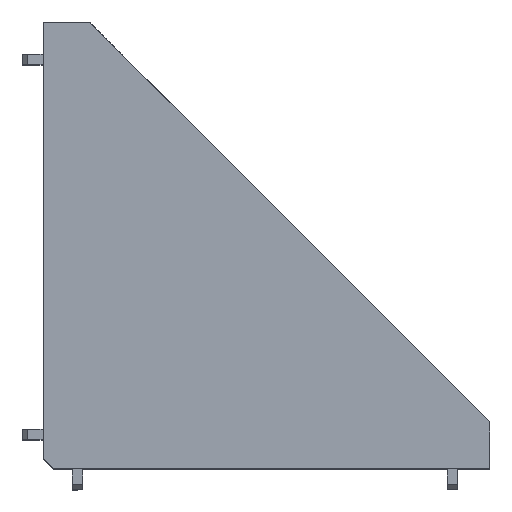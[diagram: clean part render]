
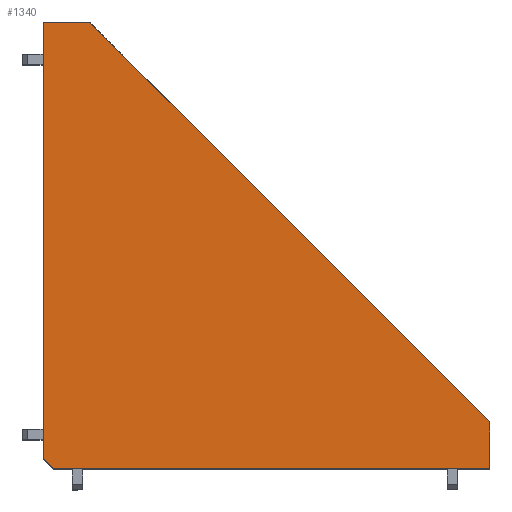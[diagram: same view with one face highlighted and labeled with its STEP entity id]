
A CAD part, top view. The second image highlights one B-rep face of the part: STEP entity #1340.
In plain terms, the highlighted planar face has unit normal (0, 0, 1).
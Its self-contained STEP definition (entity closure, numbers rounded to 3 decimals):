
#54 = EDGE_CURVE ( 'NONE', #4674, #561, #4972, .T. ) ;
#78 = DIRECTION ( 'NONE',  ( 0., 0., 1. ) ) ;
#167 = DIRECTION ( 'NONE',  ( 0.707, -0.707, 0. ) ) ;
#199 = AXIS2_PLACEMENT_3D ( 'NONE', #700, #78, #5565 ) ;
#211 = CARTESIAN_POINT ( 'NONE',  ( 9., 86., 44. ) ) ;
#287 = CARTESIAN_POINT ( 'NONE',  ( 0., 0., 44. ) ) ;
#359 = EDGE_CURVE ( 'NONE', #561, #5852, #3924, .T. ) ;
#367 = VECTOR ( 'NONE', #1790, 1000. ) ;
#561 = VERTEX_POINT ( 'NONE', #1968 ) ;
#632 = CARTESIAN_POINT ( 'NONE',  ( 2., 0., 44. ) ) ;
#700 = CARTESIAN_POINT ( 'NONE',  ( 0., 0., 44. ) ) ;
#784 = CARTESIAN_POINT ( 'NONE',  ( 1., 1., 44. ) ) ;
#903 = LINE ( 'NONE', #287, #5062 ) ;
#1210 = DIRECTION ( 'NONE',  ( -1., 0., 0. ) ) ;
#1340 = ADVANCED_FACE ( 'NONE', ( #5672 ), #1955, .T. ) ;
#1538 = VECTOR ( 'NONE', #1210, 1000. ) ;
#1722 = VECTOR ( 'NONE', #167, 1000. ) ;
#1790 = DIRECTION ( 'NONE',  ( 0., 1., 0. ) ) ;
#1832 = CARTESIAN_POINT ( 'NONE',  ( 0., 86., 44. ) ) ;
#1955 = PLANE ( 'NONE',  #199 ) ;
#1968 = CARTESIAN_POINT ( 'NONE',  ( 0., 2., 44. ) ) ;
#2012 = CARTESIAN_POINT ( 'NONE',  ( 0., 86., 44. ) ) ;
#2277 = CARTESIAN_POINT ( 'NONE',  ( 86., 0., 44. ) ) ;
#2434 = CARTESIAN_POINT ( 'NONE',  ( 86., 0., 44. ) ) ;
#2477 = LINE ( 'NONE', #1832, #1538 ) ;
#2758 = VECTOR ( 'NONE', #3728, 1000. ) ;
#2804 = EDGE_LOOP ( 'NONE', ( #3905, #5258, #2805, #4923, #3609, #6001 ) ) ;
#2805 = ORIENTED_EDGE ( 'NONE', *, *, #4297, .T. ) ;
#2817 = VECTOR ( 'NONE', #4050, 1000. ) ;
#3056 = LINE ( 'NONE', #2434, #367 ) ;
#3359 = EDGE_CURVE ( 'NONE', #4479, #4674, #2477, .T. ) ;
#3386 = EDGE_CURVE ( 'NONE', #5541, #4479, #5289, .T. ) ;
#3609 = ORIENTED_EDGE ( 'NONE', *, *, #3386, .T. ) ;
#3636 = EDGE_CURVE ( 'NONE', #4890, #5541, #3056, .T. ) ;
#3728 = DIRECTION ( 'NONE',  ( 0., -1., 0. ) ) ;
#3905 = ORIENTED_EDGE ( 'NONE', *, *, #54, .T. ) ;
#3924 = LINE ( 'NONE', #784, #1722 ) ;
#4050 = DIRECTION ( 'NONE',  ( -0.707, 0.707, 0. ) ) ;
#4297 = EDGE_CURVE ( 'NONE', #5852, #4890, #903, .T. ) ;
#4354 = CARTESIAN_POINT ( 'NONE',  ( 0., 0., 44. ) ) ;
#4479 = VERTEX_POINT ( 'NONE', #211 ) ;
#4667 = CARTESIAN_POINT ( 'NONE',  ( 86., 9., 44. ) ) ;
#4674 = VERTEX_POINT ( 'NONE', #2012 ) ;
#4890 = VERTEX_POINT ( 'NONE', #2277 ) ;
#4923 = ORIENTED_EDGE ( 'NONE', *, *, #3636, .T. ) ;
#4972 = LINE ( 'NONE', #4354, #2758 ) ;
#5049 = CARTESIAN_POINT ( 'NONE',  ( 86., 9., 44. ) ) ;
#5062 = VECTOR ( 'NONE', #5767, 1000. ) ;
#5258 = ORIENTED_EDGE ( 'NONE', *, *, #359, .T. ) ;
#5289 = LINE ( 'NONE', #4667, #2817 ) ;
#5541 = VERTEX_POINT ( 'NONE', #5049 ) ;
#5565 = DIRECTION ( 'NONE',  ( 1., 0., 0. ) ) ;
#5672 = FACE_OUTER_BOUND ( 'NONE', #2804, .T. ) ;
#5767 = DIRECTION ( 'NONE',  ( 1., 0., 0. ) ) ;
#5852 = VERTEX_POINT ( 'NONE', #632 ) ;
#6001 = ORIENTED_EDGE ( 'NONE', *, *, #3359, .T. ) ;
